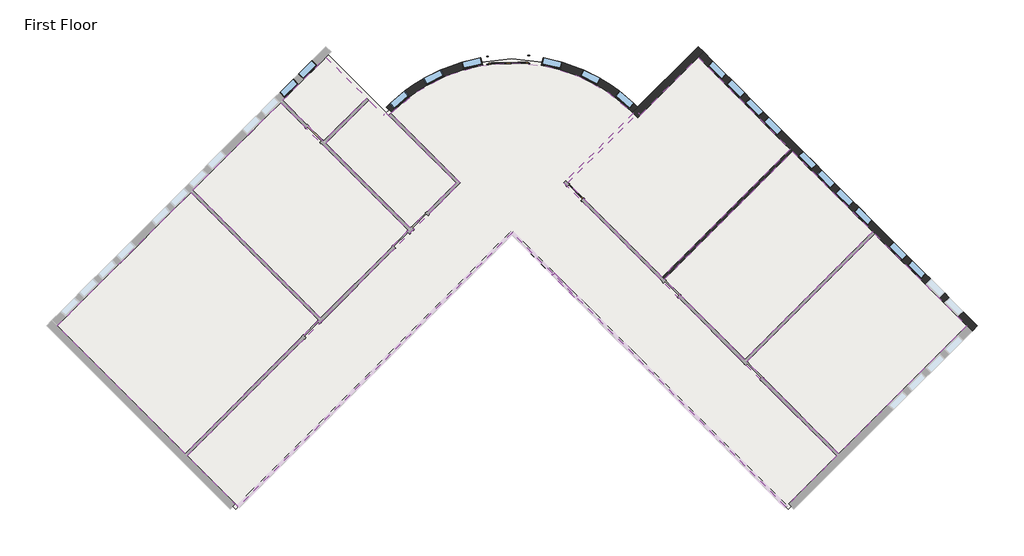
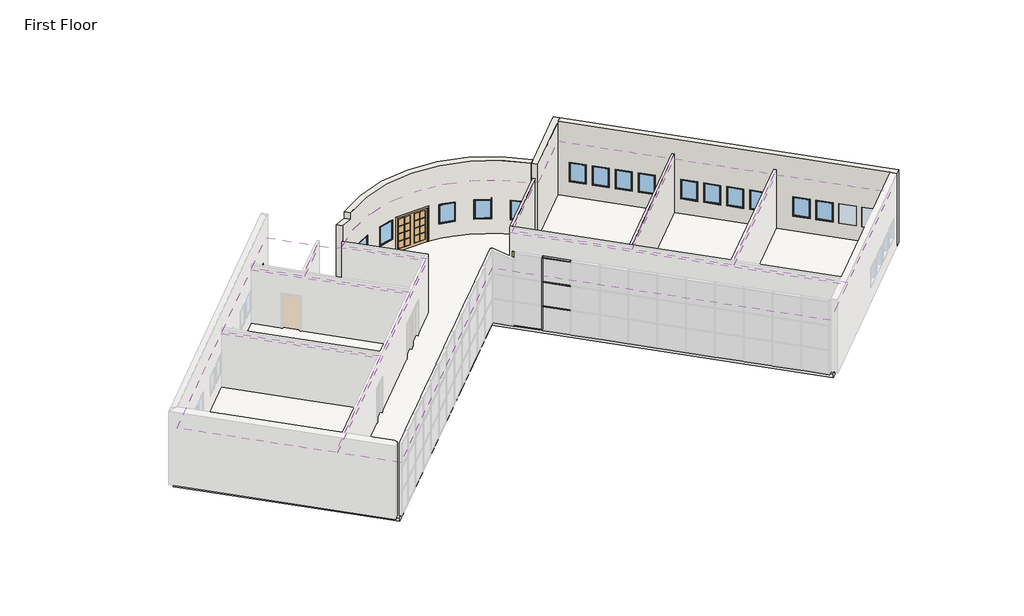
# One storey, part 4 of 4: 18 windows, 8 coverings, 7 members, 5 walls, 2 doors, 1 slab.
"""IFC4 building model written with IfcOpenShell, lengths in millimetres."""

from ifc_helpers import new_model, si_unit, point, frame, frame_2d, origin, origin_with_axes, place, context, project, spatial, polyline, circle_curve, ellipse_curve, trimmed, segment, composite_curve, outline, extrude, faceted_brep, transform, mapped, element, save
from ifc_brep_helpers import plane_surface, cylinder_surface, revolved_surface, advanced_brep
from components import m_double_glass_2_1830_x_2134mm_ef281dce, m_single_glass_1_0915_x_2134mm_4e5e1233, rectangular_mullion_50_x_150mm_40297ad3, rectangular_mullion_50_x_150mm_f494fff1, rectangular_mullion_50_x_150mm_5da8f88f, m_fixed_0915_x_1220mm_bde29121, m_fixed_0915_x_1220mm_2a2509e7

model = new_model("IFC4")

# Units and contexts
model_context = context("Model", 3, world=origin())
ifc_project = project(units=[si_unit("LENGTHUNIT", "METRE", prefix="MILLI")], contexts=[model_context])

# Site, building, storey
site = spatial("IfcSite", under=ifc_project)
building = spatial("IfcBuilding", under=site)
storey = spatial("IfcBuildingStorey", under=building, Name="First Floor", Elevation=0.0)

# Coverings
placement = place(None, origin())
element("IfcCovering", 1, ObjectType="600 x 600mm grid", at=placement, inside=storey, context=model_context, shape_type="SweptSolid", body=[
    extrude(outline(polyline([(-10551.8033322, -2052.473346), (-16737.0431239, -8237.7131378), (-22658.8856396, -2315.870622), (-16473.6458479, 3869.3691697), (-10551.8033322, -2052.473346)])), frame((0.0, 0.0, 3353.0), z_axis=(0.0, 0.0, 1.0), x_axis=(1.0, 0.0, 0.0)), (0.0, 0.0, 1.0), 52.0),
])
element("IfcCovering", 2, ObjectType="600 x 600mm grid", at=placement, inside=storey, context=model_context, shape_type="SweptSolid", body=[
    extrude(outline(polyline([(-16375.7115587, 3967.3034589), (-12319.9238385, 8023.0911791), (-6398.0813228, 2101.2486633), (-10453.869043, -1954.5390569), (-16375.7115587, 3967.3034589)])), frame((0.0, 0.0, 3353.0), z_axis=(0.0, 0.0, 1.0), x_axis=(1.0, 0.0, 0.0)), (0.0, 0.0, 1.0), 52.0),
])
element("IfcCovering", 3, ObjectType="600 x 600mm grid", at=placement, inside=storey, context=model_context, shape_type="SweptSolid", body=[
    extrude(outline(polyline([(-12221.9895493, 8121.0254683), (-10222.2915721, 10120.7234455), (-8331.6648159, 8230.0966893), (-10331.3627931, 6230.3987121), (-12221.9895493, 8121.0254683)])), frame((0.0, 0.0, 3353.0), z_axis=(0.0, 0.0, 1.0), x_axis=(1.0, 0.0, 0.0)), (0.0, 0.0, 1.0), 52.0),
])
element("IfcCovering", 4, ObjectType="600 x 600mm grid", at=placement, inside=storey, context=model_context, shape_type="SweptSolid", body=[
    extrude(outline(polyline([(-8233.7305267, 8132.1624001), (-7543.133828, 7441.5657013), (-7436.5374807, 7548.1620486), (-4193.8527091, 4305.477277), (-6300.1470336, 2199.1829525), (-10233.4285039, 6132.4644229), (-8233.7305267, 8132.1624001)])), frame((0.0, 0.0, 3353.0), z_axis=(0.0, 0.0, 1.0), x_axis=(1.0, 0.0, 0.0)), (0.0, 0.0, 1.0), 52.0),
])
element("IfcCovering", 5, ObjectType="600 x 600mm grid", at=placement, inside=storey, context=model_context, shape_type="SweptSolid", body=[
    extrude(outline(polyline([(4234.0460889, 7548.1620486), (4340.6424361, 7441.5657013), (7019.8001803, 10120.7234455), (11281.3559738, 5859.167652), (5359.5134581, -62.6748638), (991.3613173, 4305.477277), (4234.0460889, 7548.1620486)])), frame((0.0, 0.0, 3353.0), z_axis=(0.0, 0.0, 1.0), x_axis=(1.0, 0.0, 0.0)), (0.0, 0.0, 1.0), 52.0),
])
element("IfcCovering", 6, ObjectType="600 x 600mm grid", at=placement, inside=storey, context=model_context, shape_type="SweptSolid", body=[
    extrude(outline(polyline([(11379.290263, 5761.2333628), (15096.9041651, 2043.6194607), (9175.0616494, -3878.2230551), (5457.4477473, -160.609153), (11379.290263, 5761.2333628)])), frame((0.0, 0.0, 3353.0), z_axis=(0.0, 0.0, 1.0), x_axis=(1.0, 0.0, 0.0)), (0.0, 0.0, 1.0), 52.0),
])
element("IfcCovering", 7, ObjectType="600 x 600mm grid", at=placement, inside=storey, context=model_context, shape_type="SweptSolid", body=[
    extrude(outline(polyline([(15194.8384543, 1945.6851715), (19456.3942478, -2315.870622), (13534.5517321, -8237.7131378), (9272.9959386, -3976.1573443), (15194.8384543, 1945.6851715)])), frame((0.0, 0.0, 3353.0), z_axis=(0.0, 0.0, 1.0), x_axis=(1.0, 0.0, 0.0)), (0.0, 0.0, 1.0), 52.0),
])
element("IfcCovering", 8, ObjectType="600 x 600mm grid", at=placement, inside=storey, context=model_context, shape_type="SweptSolid", body=[
    extrude(outline(composite_curve([segment(polyline([(795.4927389, 4305.477277), (13436.6174429, -8335.647427), (11082.835745, -10689.4291248), (-1601.2456959, 1994.6523161), (-14285.3271368, -10689.4291248), (-16639.1088347, -8335.647427), (-3997.9841307, 4305.477277), (-7216.038281, 7523.5314273)]), True, "CONTINUOUS"), segment(trimmed(circle_curve(frame_2d((-1601.2456959, 1994.6523161)), 7880.0), [point((-7216.038281, 7523.5314273))], [point((4013.5468892, 7523.5314273))], False, "CARTESIAN"), True, "CONTINUOUS"), segment(polyline([(4013.5468892, 7523.5314273), (795.4927389, 4305.477277)]), True, "CONTINUOUS")], self_intersect=False)), frame((0.0, 0.0, 3353.0), z_axis=(0.0, 0.0, 1.0), x_axis=(1.0, 0.0, 0.0)), (0.0, 0.0, 1.0), 52.0),
])

# Doors
m_double_glass_2_1830_x_2134mm_shape = m_double_glass_2_1830_x_2134mm_ef281dce(model_context)
element("IfcDoor", 9, ObjectType="M_Double-Glass 2 : 1830 x 2134mm", at=placement, inside=storey, context=model_context, shape_type="MappedRepresentation", body=[
    mapped(m_double_glass_2_1830_x_2134mm_shape, transform((-1775.1372024, 9996.7407669, 0.0), x_axis=(-0.9997639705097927, -0.021725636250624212, 0.0), y_axis=(0.021725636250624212, -0.9997639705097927, 0.0), z_axis=(0.0, 0.0, 1.0))),
])
m_single_glass_1_0915_x_2134mm_shape = m_single_glass_1_0915_x_2134mm_4e5e1233(model_context)
element("IfcDoor", 10, ObjectType="M_Single-Glass 1 : 0915 x 2134mm", at=placement, inside=storey, context=model_context, shape_type="MappedRepresentation", body=[
    mapped(m_single_glass_1_0915_x_2134mm_shape, transform((1324.7621646, 3874.1421405, 0.0), x_axis=(-0.7071067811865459, 0.7071067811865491, 0.0), y_axis=(-0.7071067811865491, -0.7071067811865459, 0.0), z_axis=(0.0, 0.0, 1.0))),
])

# Members
rectangular_mullion_50_x_150mm_shape = rectangular_mullion_50_x_150mm_40297ad3(model_context)
element("IfcMember", 11, ObjectType="Rectangular Mullion : 50 x 150mm", at=placement, inside=storey, context=model_context, shape_type="MappedRepresentation", body=[
    mapped(rectangular_mullion_50_x_150mm_shape, transform((306.5283997, 86.8782204, 0.0), x_axis=(-0.7071067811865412, 0.7071067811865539, 0.0), y_axis=(0.7071067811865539, 0.7071067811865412, 0.0), z_axis=(0.0, 0.0, -1.0))),
])
rectangular_mullion_50_x_150mm_2_shape = rectangular_mullion_50_x_150mm_f494fff1(model_context)
element("IfcMember", 12, ObjectType="Rectangular Mullion : 50 x 150mm", at=placement, inside=storey, context=model_context, shape_type="MappedRepresentation", body=[
    mapped(rectangular_mullion_50_x_150mm_2_shape, transform((324.2060693, 69.2005509, 1524.0), x_axis=(0.0, 0.0, 1.0), y_axis=(0.7071067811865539, 0.7071067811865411, 0.0), z_axis=(-0.7071067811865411, 0.7071067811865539, 0.0))),
])
element("IfcMember", 13, ObjectType="Rectangular Mullion : 50 x 150mm", at=placement, inside=storey, context=model_context, shape_type="MappedRepresentation", body=[
    mapped(rectangular_mullion_50_x_150mm_2_shape, transform((324.2060693, 69.2005509, 3048.0), x_axis=(0.0, 0.0, 1.0), y_axis=(0.7071067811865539, 0.7071067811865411, 0.0), z_axis=(-0.7071067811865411, 0.7071067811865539, 0.0))),
])
rectangular_mullion_50_x_150mm_3_shape = rectangular_mullion_50_x_150mm_5da8f88f(model_context)
element("IfcMember", 14, ObjectType="Rectangular Mullion : 50 x 150mm", at=placement, inside=storey, context=model_context, shape_type="MappedRepresentation", body=[
    mapped(rectangular_mullion_50_x_150mm_3_shape, transform((288.8507302, 104.55589, 0.0), x_axis=(0.0, 0.0, -1.0), y_axis=(0.7071067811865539, 0.7071067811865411, 0.0), z_axis=(0.7071067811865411, -0.7071067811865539, 0.0))),
])
element("IfcMember", 15, ObjectType="Rectangular Mullion : 50 x 150mm", at=placement, inside=storey, context=model_context, shape_type="MappedRepresentation", body=[
    mapped(rectangular_mullion_50_x_150mm_3_shape, transform((324.2060693, 69.2005509, 4572.0), x_axis=(0.0, 0.0, 1.0), y_axis=(0.7071067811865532, 0.7071067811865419, 0.0), z_axis=(-0.7071067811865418, 0.7071067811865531, 0.0))),
])
element("IfcMember", 16, ObjectType="Rectangular Mullion : 50 x 150mm", at=placement, inside=storey, context=model_context, shape_type="MappedRepresentation", body=[
    mapped(rectangular_mullion_50_x_150mm_shape, transform((306.5283997, 86.8782204, 1524.0), x_axis=(-0.7071067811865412, 0.7071067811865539, 0.0), y_axis=(0.7071067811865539, 0.7071067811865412, 0.0), z_axis=(0.0, 0.0, -1.0))),
])
element("IfcMember", 17, ObjectType="Rectangular Mullion : 50 x 150mm", at=placement, inside=storey, context=model_context, shape_type="MappedRepresentation", body=[
    mapped(rectangular_mullion_50_x_150mm_shape, transform((306.5283997, 86.8782204, 3048.0), x_axis=(-0.7071067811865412, 0.7071067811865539, 0.0), y_axis=(0.7071067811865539, 0.7071067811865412, 0.0), z_axis=(0.0, 0.0, -1.0))),
])

# Slab
element("IfcSlab", 18, ObjectType="160mm Concrete With 50mm Metal Deck", at=placement, inside=storey, context=model_context, shape_type="SweptSolid", body=[
    extrude(outline(composite_curve([segment(polyline([(-10222.2915721, 10354.0686833), (-7419.2302211, 7551.0073322)]), True, "CONTINUOUS"), segment(trimmed(circle_curve(frame_2d((-1601.2456959, 1994.6523161)), 8045.0), [point((-7419.2302211, 7551.0073322))], [point((4216.7388292, 7551.0073322))], False, "CARTESIAN"), True, "CONTINUOUS"), segment(polyline([(4216.7388292, 7551.0073322), (7019.8001803, 10354.0686833), (19689.7394856, -2315.870622), (11199.5083639, -10806.1017437), (-1601.2456959, 1994.6523161), (-14401.9997557, -10806.1017437), (-22892.2308774, -2315.870622), (-10222.2915721, 10354.0686833)]), True, "CONTINUOUS")], self_intersect=False)), frame((0.0, 0.0, -210.0), z_axis=(0.0, 0.0, 1.0), x_axis=(1.0, 0.0, 0.0)), (0.0, 0.0, 1.0), 210.0),
])

# Walls
element("IfcWall", 19, ObjectType="Exterior - Brick on Mtl. Stud", at=placement, inside=storey, context=model_context, shape_type="AdvancedBrep", body=[
    advanced_brep(
    [(4212.7441701, 7313.6674352, 4572.0), (4212.7441701, 7313.6674352, 0.0), (7019.8001803, 10120.7234455, 0.0), (7267.2875537, 10368.2108189, 0.0), (7267.2875537, 10368.2108189, 4572.0), (7019.8001803, 10120.7234455, 4572.0), (3970.7557398, 7566.6537518, 0.0), (3970.7557398, 7566.6537518, 4572.0), (4218.2431133, 7814.1411252, 4572.0), (7019.8001803, 10615.6981923, 4572.0), (7019.8001803, 10615.6981923, 0.0), (4218.2431133, 7814.1411252, 0.0), (4109.8638796, 7423.9826013, 0.0), (4013.5506313, 7523.5275434, 0.0)],
    [
        (0, 1),
        (1, 2),
        (2, 3),
        (3, 4),
        (4, 5),
        (5, 0),
        (6, 7),
        (7, 8),
        (8, 9),
        (9, 10),
        (10, 11),
        (11, 6),
        (1, 12, circle_curve(frame((-1601.2456959, 1994.6523161, 0.0), z_axis=(0.0, 0.0, 1.0), x_axis=(1.0, 0.0, 0.0)), 7880.0)),
        (12, 13, circle_curve(frame((-1601.2456959, 1994.6523161, 0.0), z_axis=(0.0, 0.0, 1.0), x_axis=(1.0, 0.0, 0.0)), 7879.9999955)),
        (13, 6, circle_curve(frame((-1601.2456959, 1994.6523161, 0.0), z_axis=(0.0, 0.0, 1.0), x_axis=(1.0, 0.0, 0.0)), 7879.9999413)),
        (10, 3),
        (4, 9),
        (7, 0, circle_curve(frame((-1601.2456959, 1994.6523161, 4572.0), z_axis=(0.0, 0.0, -1.0), x_axis=(1.0, 0.0, 0.0)), 7880.0)),
    ],
    [
        plane_surface(frame((4250.0629184, 7350.9861836, 0.0), z_axis=(0.7071067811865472, -0.7071067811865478, 0.0), x_axis=(0.7071067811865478, 0.7071067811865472, 0.0))),
        plane_surface(frame((4002.575545, 7598.473557, 0.0), z_axis=(-0.7071067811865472, 0.7071067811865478, 0.0), x_axis=(-0.7071067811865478, -0.7071067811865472, 0.0))),
        plane_surface(frame((4340.6424361, 7441.5657013, 0.0), z_axis=(0.0, 0.0, -1.0), x_axis=(-0.7071067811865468, 0.7071067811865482, 0.0))),
        plane_surface(frame((7143.543867, 10244.4671322, 4572.0), z_axis=(0.0, 0.0, 1.0), x_axis=(-0.707106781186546, 0.7071067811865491, 0.0))),
        plane_surface(frame((7019.8001803, 10615.6981923, 0.0), z_axis=(0.7071067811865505, 0.7071067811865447, 0.0), x_axis=(-0.7071067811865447, 0.7071067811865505, 0.0))),
        revolved_surface(polyline([(6278.7543041, 1994.6523161, 0.0), (6278.7543041, 1994.6523161, 4572.0)]), (-1601.2456959, 1994.6523161, 0.0), (0.0, 0.0, -1.0)),
    ],
    [
        (0, [[1, 2, 3, 4, 5, 6]]),
        (1, [[7, 8, 9, 10, 11, 12]]),
        (2, [[-3, -2, 13, 14, 15, -12, -11, 16]]),
        (3, [[-6, -5, 17, -9, -8, 18]]),
        (4, [[-4, -16, -10, -17]]),
        (5, [[-18, -7, -15, -14, -13, -1]]),
    ],
),
])
element("IfcWall", 20, ObjectType="Exterior - Brick on Mtl. Stud", at=placement, inside=storey, context=model_context, shape_type="Brep", body=[
    faceted_brep([(7019.8001803, 10120.7234455, 0.0), (11281.3559738, 5859.167652, 0.0), (11379.290263, 5761.2333628, 0.0), (15096.9041651, 2043.6194607, 0.0), (15194.8384543, 1945.6851715, 0.0), (19456.3942478, -2315.870622, 0.0), (19703.8816212, -2563.3579955, 0.0), (19703.8816212, -2563.3579955, 4572.0), (19456.3942478, -2315.870622, 4572.0), (7019.8001803, 10120.7234455, 4572.0), (19041.6761207, -1901.1524949, 915.0), (18394.6734159, -1254.1497901, 915.0), (18394.6734159, -1254.1497901, 2135.0), (19041.6761207, -1901.1524949, 2135.0), (18179.7129544, -1039.1893286, 915.0), (17532.7102496, -392.1866238, 915.0), (17532.7102496, -392.1866238, 2135.0), (18179.7129544, -1039.1893286, 2135.0), (17317.7497881, -177.2261623, 915.0), (16670.7470833, 469.7765424, 915.0), (16670.7470833, 469.7765424, 2135.0), (17317.7497881, -177.2261623, 2135.0), (16455.7866219, 684.7370039, 915.0), (15808.7839171, 1331.7397087, 915.0), (15808.7839171, 1331.7397087, 2135.0), (16455.7866219, 684.7370039, 2135.0), (12257.1680181, 4883.3556077, 915.0), (11610.1653133, 5530.3583124, 915.0), (11610.1653133, 5530.3583124, 2135.0), (12257.1680181, 4883.3556077, 2135.0), (13119.1311844, 4021.3924414, 915.0), (12472.1284796, 4668.3951462, 915.0), (12472.1284796, 4668.3951462, 2135.0), (13119.1311844, 4021.3924414, 2135.0), (13981.0943507, 3159.4292751, 915.0), (13334.0916459, 3806.4319799, 915.0), (13334.0916459, 3806.4319799, 2135.0), (13981.0943507, 3159.4292751, 2135.0), (14843.0575169, 2297.4661089, 915.0), (14196.0548121, 2944.4688136, 915.0), (14196.0548121, 2944.4688136, 2135.0), (14843.0575169, 2297.4661089, 2135.0), (8081.5210123, 9059.0026135, 915.0), (7434.5183075, 9706.0053183, 915.0), (7434.5183075, 9706.0053183, 2135.0), (8081.5210123, 9059.0026135, 2135.0), (8943.4841785, 8197.0394473, 915.0), (8296.4814737, 8844.042152, 915.0), (8296.4814737, 8844.042152, 2135.0), (8943.4841785, 8197.0394473, 2135.0), (9805.4473448, 7335.076281, 915.0), (9158.44464, 7982.0789858, 915.0), (9158.44464, 7982.0789858, 2135.0), (9805.4473448, 7335.076281, 2135.0), (10667.4105111, 6473.1131147, 915.0), (10020.4078063, 7120.1158195, 915.0), (10020.4078063, 7120.1158195, 2135.0), (10667.4105111, 6473.1131147, 2135.0), (7267.2875537, 10368.2108189, 0.0), (7267.2875537, 10368.2108189, 4572.0), (19951.3689947, -2315.870622, 4572.0), (19951.3689947, -2315.870622, 0.0), (19289.1634941, -1653.6651215, 915.0), (19289.1634941, -1653.6651215, 2135.0), (18642.1607893, -1006.6624167, 2135.0), (18642.1607893, -1006.6624167, 915.0), (18427.2003278, -791.7019552, 915.0), (18427.2003278, -791.7019552, 2135.0), (17780.197623, -144.6992504, 2135.0), (17780.197623, -144.6992504, 915.0), (17565.2371615, 70.2612111, 915.0), (17565.2371615, 70.2612111, 2135.0), (16918.2344568, 717.2639159, 2135.0), (16918.2344568, 717.2639159, 915.0), (16703.2739953, 932.2243773, 915.0), (16703.2739953, 932.2243773, 2135.0), (16056.2712905, 1579.2270821, 2135.0), (16056.2712905, 1579.2270821, 915.0), (12504.6553915, 5130.8429811, 915.0), (12504.6553915, 5130.8429811, 2135.0), (11857.6526868, 5777.8456859, 2135.0), (11857.6526868, 5777.8456859, 915.0), (13366.6185578, 4268.8798148, 915.0), (13366.6185578, 4268.8798148, 2135.0), (12719.615853, 4915.8825196, 2135.0), (12719.615853, 4915.8825196, 915.0), (14228.5817241, 3406.9166485, 915.0), (14228.5817241, 3406.9166485, 2135.0), (13581.5790193, 4053.9193533, 2135.0), (13581.5790193, 4053.9193533, 915.0), (15090.5448903, 2544.9534823, 915.0), (15090.5448903, 2544.9534823, 2135.0), (14443.5421856, 3191.9561871, 2135.0), (14443.5421856, 3191.9561871, 915.0), (8329.0083857, 9306.4899869, 915.0), (8329.0083857, 9306.4899869, 2135.0), (7682.0056809, 9953.4926917, 2135.0), (7682.0056809, 9953.4926917, 915.0), (9190.971552, 8444.5268207, 915.0), (9190.971552, 8444.5268207, 2135.0), (8543.9688472, 9091.5295255, 2135.0), (8543.9688472, 9091.5295255, 915.0), (10052.9347182, 7582.5636544, 915.0), (10052.9347182, 7582.5636544, 2135.0), (9405.9320134, 8229.5663592, 2135.0), (9405.9320134, 8229.5663592, 915.0), (10914.8978845, 6720.6004881, 915.0), (10914.8978845, 6720.6004881, 2135.0), (10267.8951797, 7367.6031929, 2135.0), (10267.8951797, 7367.6031929, 915.0)], [[[0, 1, 2, 3, 4, 5, 6, 7, 8, 9], [10, 11, 12, 13], [14, 15, 16, 17], [18, 19, 20, 21], [22, 23, 24, 25], [26, 27, 28, 29], [30, 31, 32, 33], [34, 35, 36, 37], [38, 39, 40, 41], [42, 43, 44, 45], [46, 47, 48, 49], [50, 51, 52, 53], [54, 55, 56, 57]], [[58, 59, 60, 61], [62, 63, 64, 65], [66, 67, 68, 69], [70, 71, 72, 73], [74, 75, 76, 77], [78, 79, 80, 81], [82, 83, 84, 85], [86, 87, 88, 89], [90, 91, 92, 93], [94, 95, 96, 97], [98, 99, 100, 101], [102, 103, 104, 105], [106, 107, 108, 109]], [[6, 5, 4, 3, 2, 1, 0, 58, 61]], [[9, 8, 7, 60, 59]], [[0, 9, 59, 58]], [[7, 6, 61, 60]], [[63, 62, 10, 13]], [[64, 63, 13, 12]], [[65, 64, 12, 11]], [[62, 65, 11, 10]], [[67, 66, 14, 17]], [[68, 67, 17, 16]], [[69, 68, 16, 15]], [[66, 69, 15, 14]], [[71, 70, 18, 21]], [[72, 71, 21, 20]], [[73, 72, 20, 19]], [[70, 73, 19, 18]], [[75, 74, 22, 25]], [[76, 75, 25, 24]], [[77, 76, 24, 23]], [[74, 77, 23, 22]], [[79, 78, 26, 29]], [[80, 79, 29, 28]], [[81, 80, 28, 27]], [[78, 81, 27, 26]], [[83, 82, 30, 33]], [[84, 83, 33, 32]], [[85, 84, 32, 31]], [[82, 85, 31, 30]], [[87, 86, 34, 37]], [[88, 87, 37, 36]], [[89, 88, 36, 35]], [[86, 89, 35, 34]], [[91, 90, 38, 41]], [[92, 91, 41, 40]], [[93, 92, 40, 39]], [[90, 93, 39, 38]], [[95, 94, 42, 45]], [[96, 95, 45, 44]], [[97, 96, 44, 43]], [[94, 97, 43, 42]], [[99, 98, 46, 49]], [[100, 99, 49, 48]], [[101, 100, 48, 47]], [[98, 101, 47, 46]], [[103, 102, 50, 53]], [[104, 103, 53, 52]], [[105, 104, 52, 51]], [[102, 105, 51, 50]], [[107, 106, 54, 57]], [[108, 107, 57, 56]], [[109, 108, 56, 55]], [[106, 109, 55, 54]]]),
])
element("IfcWall", 21, ObjectType="Exterior - Brick on Mtl. Stud", at=placement, inside=storey, context=model_context, shape_type="AdvancedBrep", body=[
    advanced_brep(
    [(-7173.2471317, 7566.6537518, 0.0), (-7420.7345051, 7814.1411252, 0.0), (-2693.7232217, 10151.8205046, 0.0), (-2686.0696858, 9799.6223295, 0.0), (4218.2431133, 7814.1411252, 0.0), (3970.7557398, 7566.6537518, 0.0), (-856.5016198, 9839.3802439, 0.0), (-864.1551557, 10191.5784189, 0.0), (-7420.7345051, 7814.1411252, 4571.7250795), (-6493.7687298, 8612.515896, 4165.1754932), (-6493.7687298, 8612.515896, 4572.0), (4218.2431133, 7814.1411252, 4572.0), (-864.1551557, 10191.5784189, 2134.0), (-2693.7232217, 10151.8205046, 2134.0), (-6560.8584073, 8562.3872188, 915.0), (-6560.8584073, 8562.3872188, 2135.0), (-7259.2688911, 7971.2461222, 2135.0), (-7259.2688911, 7971.2461222, 915.0), (-3038.6037285, 10098.1640169, 915.0), (-3038.6037285, 10098.1640169, 2135.0), (-3929.264468, 9888.5251676, 2135.0), (-3929.264468, 9888.5251676, 915.0), (-4890.6166492, 9538.7187747, 915.0), (-4890.6166492, 9538.7187747, 2135.0), (-5707.7291441, 9126.9516431, 2135.0), (-5707.7291441, 9126.9516431, 915.0), (1688.1252574, 9538.7187747, 915.0), (2505.2377523, 9126.9516431, 915.0), (2505.2377523, 9126.9516431, 2135.0), (1688.1252574, 9538.7187747, 2135.0), (-163.8876633, 10098.1640169, 915.0), (726.7730762, 9888.5251676, 915.0), (726.7730762, 9888.5251676, 2135.0), (-163.8876633, 10098.1640169, 2135.0), (3358.3670155, 8562.3872188, 915.0), (4056.7774992, 7971.2461222, 915.0), (4056.7774992, 7971.2461222, 2135.0), (3358.3670155, 8562.3872188, 2135.0), (-7173.2471317, 7566.6537518, 4571.7250795), (-2686.0696858, 9799.6223295, 2134.0), (-856.5016198, 9839.3802439, 2134.0), (3970.7557398, 7566.6537518, 4572.0), (-6243.3914961, 8362.1386623, 4572.0), (-6243.3914961, 8362.1386623, 4165.1754932), (-6334.373084, 8294.8035149, 2135.0), (-6334.373084, 8294.8035149, 915.0), (-7032.7835678, 7703.6624182, 915.0), (-7032.7835678, 7703.6624182, 2135.0), (-2958.2842873, 9756.9230059, 2135.0), (-2958.2842873, 9756.9230059, 915.0), (-3848.9450268, 9547.2841566, 915.0), (-3848.9450268, 9547.2841566, 2135.0), (-4732.8553085, 9225.6564811, 915.0), (-5549.9678034, 8813.8893495, 915.0), (-5549.9678034, 8813.8893495, 2135.0), (-4732.8553085, 9225.6564811, 2135.0), (1530.3639167, 9225.6564811, 915.0), (1530.3639167, 9225.6564811, 2135.0), (2347.4764116, 8813.8893495, 2135.0), (2347.4764116, 8813.8893495, 915.0), (-244.2071045, 9756.9230059, 915.0), (-244.2071045, 9756.9230059, 2135.0), (646.453635, 9547.2841566, 2135.0), (646.453635, 9547.2841566, 915.0), (3131.8816922, 8294.8035149, 915.0), (3131.8816922, 8294.8035149, 2135.0), (3830.2921759, 7703.6624182, 2135.0), (3830.2921759, 7703.6624182, 915.0)],
    [
        (0, 1),
        (1, 2, circle_curve(frame((-1601.2456959, 1994.6523161, 0.0), z_axis=(0.0, 0.0, -1.0), x_axis=(1.0, 0.0, 0.0)), 8230.0)),
        (2, 3),
        (3, 0, circle_curve(frame((-1601.2456959, 1994.6523161, 0.0), z_axis=(0.0, 0.0, 1.0), x_axis=(1.0, 0.0, 0.0)), 7880.0)),
        (4, 5),
        (5, 6, circle_curve(frame((-1601.2456959, 1994.6523161, 0.0), z_axis=(0.0, 0.0, 1.0), x_axis=(1.0, 0.0, 0.0)), 7880.0)),
        (6, 7),
        (7, 4, circle_curve(frame((-1601.2456959, 1994.6523161, 0.0), z_axis=(0.0, 0.0, -1.0), x_axis=(1.0, 0.0, 0.0)), 8230.0)),
        (1, 8),
        (8, 9, ellipse_curve(frame((-1601.2456959, 1994.6523161, 4571.7250795), z_axis=(-0.22354885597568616, -0.22354885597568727, -0.948710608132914), x_axis=(-0.6708397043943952, -0.6708397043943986, 0.3161458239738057)), 8674.9319861, 8230.0)),
        (9, 10),
        (10, 11, circle_curve(frame((-1601.2456959, 1994.6523161, 4572.0), z_axis=(0.0, 0.0, -1.0), x_axis=(1.0, 0.0, 0.0)), 8230.0)),
        (11, 4),
        (7, 12),
        (12, 13, circle_curve(frame((-1601.2456959, 1994.6523161, 2134.0), z_axis=(0.0, 0.0, 1.0), x_axis=(1.0, 0.0, 0.0)), 8230.0)),
        (13, 2),
        (14, 15),
        (15, 16, circle_curve(frame((-1601.2456959, 1994.6523161, 2135.0), z_axis=(0.0, 0.0, 1.0), x_axis=(1.0, 0.0, 0.0)), 8230.0)),
        (16, 17),
        (17, 14, circle_curve(frame((-1601.2456959, 1994.6523161, 915.0), z_axis=(0.0, 0.0, -1.0), x_axis=(1.0, 0.0, 0.0)), 8230.0)),
        (18, 19),
        (19, 20, circle_curve(frame((-1601.2456959, 1994.6523161, 2135.0), z_axis=(0.0, 0.0, 1.0), x_axis=(1.0, 0.0, 0.0)), 8230.0)),
        (20, 21),
        (21, 18, circle_curve(frame((-1601.2456959, 1994.6523161, 915.0), z_axis=(0.0, 0.0, -1.0), x_axis=(1.0, 0.0, 0.0)), 8230.0)),
        (22, 23),
        (23, 24, circle_curve(frame((-1601.2456959, 1994.6523161, 2135.0), z_axis=(0.0, 0.0, 1.0), x_axis=(1.0, 0.0, 0.0)), 8230.0)),
        (24, 25),
        (25, 22, circle_curve(frame((-1601.2456959, 1994.6523161, 915.0), z_axis=(0.0, 0.0, -1.0), x_axis=(1.0, 0.0, 0.0)), 8230.0)),
        (26, 27, circle_curve(frame((-1601.2456959, 1994.6523161, 915.0), z_axis=(0.0, 0.0, -1.0), x_axis=(1.0, 0.0, 0.0)), 8230.0)),
        (27, 28),
        (28, 29, circle_curve(frame((-1601.2456959, 1994.6523161, 2135.0), z_axis=(0.0, 0.0, 1.0), x_axis=(1.0, 0.0, 0.0)), 8230.0)),
        (29, 26),
        (30, 31, circle_curve(frame((-1601.2456959, 1994.6523161, 915.0), z_axis=(0.0, 0.0, -1.0), x_axis=(1.0, 0.0, 0.0)), 8230.0)),
        (31, 32),
        (32, 33, circle_curve(frame((-1601.2456959, 1994.6523161, 2135.0), z_axis=(0.0, 0.0, 1.0), x_axis=(1.0, 0.0, 0.0)), 8230.0)),
        (33, 30),
        (34, 35, circle_curve(frame((-1601.2456959, 1994.6523161, 915.0), z_axis=(0.0, 0.0, -1.0), x_axis=(1.0, 0.0, 0.0)), 8230.0)),
        (35, 36),
        (36, 37, circle_curve(frame((-1601.2456959, 1994.6523161, 2135.0), z_axis=(0.0, 0.0, 1.0), x_axis=(1.0, 0.0, 0.0)), 8230.0)),
        (37, 34),
        (38, 0),
        (3, 39),
        (39, 40, circle_curve(frame((-1601.2456959, 1994.6523161, 2134.0), z_axis=(0.0, 0.0, -1.0), x_axis=(1.0, 0.0, 0.0)), 7880.0)),
        (40, 6),
        (5, 41),
        (41, 42, circle_curve(frame((-1601.2456959, 1994.6523161, 4572.0), z_axis=(0.0, 0.0, 1.0), x_axis=(1.0, 0.0, 0.0)), 7880.0)),
        (42, 43),
        (43, 38, ellipse_curve(frame((-1601.2456959, 1994.6523161, 4571.7250795), z_axis=(0.22354885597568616, 0.22354885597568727, 0.948710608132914), x_axis=(0.6708397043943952, 0.6708397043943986, -0.3161458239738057)), 8306.0102126, 7880.0)),
        (44, 45),
        (45, 46, circle_curve(frame((-1601.2456959, 1994.6523161, 915.0), z_axis=(0.0, 0.0, 1.0), x_axis=(1.0, 0.0, 0.0)), 7880.0)),
        (46, 47),
        (47, 44, circle_curve(frame((-1601.2456959, 1994.6523161, 2135.0), z_axis=(0.0, 0.0, -1.0), x_axis=(1.0, 0.0, 0.0)), 7880.0)),
        (48, 49),
        (49, 50, circle_curve(frame((-1601.2456959, 1994.6523161, 915.0), z_axis=(0.0, 0.0, 1.0), x_axis=(1.0, 0.0, 0.0)), 7880.0)),
        (50, 51),
        (51, 48, circle_curve(frame((-1601.2456959, 1994.6523161, 2135.0), z_axis=(0.0, 0.0, -1.0), x_axis=(1.0, 0.0, 0.0)), 7880.0)),
        (52, 53, circle_curve(frame((-1601.2456959, 1994.6523161, 915.0), z_axis=(0.0, 0.0, 1.0), x_axis=(1.0, 0.0, 0.0)), 7880.0)),
        (53, 54),
        (54, 55, circle_curve(frame((-1601.2456959, 1994.6523161, 2135.0), z_axis=(0.0, 0.0, -1.0), x_axis=(1.0, 0.0, 0.0)), 7880.0)),
        (55, 52),
        (56, 57),
        (57, 58, circle_curve(frame((-1601.2456959, 1994.6523161, 2135.0), z_axis=(0.0, 0.0, -1.0), x_axis=(1.0, 0.0, 0.0)), 7880.0)),
        (58, 59),
        (59, 56, circle_curve(frame((-1601.2456959, 1994.6523161, 915.0), z_axis=(0.0, 0.0, 1.0), x_axis=(1.0, 0.0, 0.0)), 7880.0)),
        (60, 61),
        (61, 62, circle_curve(frame((-1601.2456959, 1994.6523161, 2135.0), z_axis=(0.0, 0.0, -1.0), x_axis=(1.0, 0.0, 0.0)), 7880.0)),
        (62, 63),
        (63, 60, circle_curve(frame((-1601.2456959, 1994.6523161, 915.0), z_axis=(0.0, 0.0, 1.0), x_axis=(1.0, 0.0, 0.0)), 7880.0)),
        (64, 65),
        (65, 66, circle_curve(frame((-1601.2456959, 1994.6523161, 2135.0), z_axis=(0.0, 0.0, -1.0), x_axis=(1.0, 0.0, 0.0)), 7880.0)),
        (66, 67),
        (67, 64, circle_curve(frame((-1601.2456959, 1994.6523161, 915.0), z_axis=(0.0, 0.0, 1.0), x_axis=(1.0, 0.0, 0.0)), 7880.0)),
        (38, 8),
        (11, 41),
        (13, 39),
        (12, 40),
        (14, 45),
        (44, 15),
        (47, 16),
        (46, 17),
        (18, 49),
        (48, 19),
        (51, 20),
        (50, 21),
        (22, 52),
        (55, 23),
        (54, 24),
        (53, 25),
        (56, 26),
        (29, 57),
        (28, 58),
        (27, 59),
        (60, 30),
        (33, 61),
        (32, 62),
        (31, 63),
        (64, 34),
        (37, 65),
        (36, 66),
        (35, 67),
        (10, 42),
        (9, 43),
    ],
    [
        plane_surface(frame((6628.7543041, 1994.6523161, 0.0), z_axis=(0.0, 0.0, -1.0), x_axis=(0.0, -1.0, 0.0))),
        cylinder_surface(frame((-1601.2456959, 1994.6523161, 0.0), z_axis=(0.0, 0.0, 1.0), x_axis=(1.0, 0.0, 0.0)), 8230.0),
        revolved_surface(polyline([(6278.7543041, 1994.6523161, 0.0), (6278.7543041, 1994.6523161, 7197.635522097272)]), (-1601.2456959, 1994.6523161, 0.0), (0.0, 0.0, -1.0)),
        plane_surface(frame((-10222.2915721, 10615.6981923, 0.0), z_axis=(-0.7071067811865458, -0.7071067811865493, 0.0), x_axis=(-0.7071067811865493, 0.7071067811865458, 0.0))),
        plane_surface(frame((4002.575545, 7598.473557, 0.0), z_axis=(0.7071067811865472, -0.7071067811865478, 0.0), x_axis=(-0.7071067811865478, -0.7071067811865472, 0.0))),
        plane_surface(frame((-2726.8330914, 11675.4607956, 0.0), z_axis=(0.9997639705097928, 0.021725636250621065, 0.0), x_axis=(0.021725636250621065, -0.9997639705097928, 0.0))),
        plane_surface(frame((-2726.8330914, 11675.4607956, 2134.0), z_axis=(0.0, 0.0, -1.0000000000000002), x_axis=(0.021725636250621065, -0.9997639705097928, 0.0))),
        plane_surface(frame((-897.2650253, 11715.21871, 2134.0), z_axis=(-0.9997639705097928, -0.021725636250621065, 0.0), x_axis=(0.021725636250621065, -0.9997639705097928, 0.0))),
        plane_surface(frame((-6560.8584073, 8562.3872188, 915.0), z_axis=(-0.7632901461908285, -0.6460558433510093, 0.0), x_axis=(0.6460558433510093, -0.7632901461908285, 0.0))),
        plane_surface(frame((-6560.8584073, 8562.3872188, 2135.0), z_axis=(0.0, 0.0, -1.0000000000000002), x_axis=(0.6460558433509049, -0.7632901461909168, 0.0))),
        plane_surface(frame((-7259.2688911, 7971.2461222, 2135.0), z_axis=(0.7632901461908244, 0.6460558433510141, 0.0), x_axis=(0.6460558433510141, -0.7632901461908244, 0.0))),
        plane_surface(frame((-7259.2688911, 7971.2461222, 915.0), z_axis=(0.0, 0.0, 1.0), x_axis=(0.6460558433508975, -0.7632901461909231, 0.0))),
        plane_surface(frame((-2689.4347599, 8614.7028508, 915.0), z_axis=(-0.9733997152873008, -0.22911349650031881, 0.0), x_axis=(-0.22911349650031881, 0.9733997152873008, 0.0))),
        plane_surface(frame((-2689.4347599, 8614.7028508, 2135.0), z_axis=(0.0, 0.0, -1.0), x_axis=(-0.22911349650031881, 0.9733997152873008, 0.0))),
        plane_surface(frame((-3580.0954993, 8405.0640015, 2135.0), z_axis=(0.9733997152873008, 0.2291134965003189, 0.0), x_axis=(-0.2291134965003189, 0.9733997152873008, 0.0))),
        plane_surface(frame((-3580.0954993, 8405.0640015, 915.0), z_axis=(0.0, 0.0, 1.0), x_axis=(-0.2291134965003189, 0.9733997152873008, 0.0))),
        plane_surface(frame((-4890.6166492, 9538.7187747, 915.0), z_axis=(-0.893019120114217, -0.45001872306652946, 0.0), x_axis=(0.45001872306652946, -0.893019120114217, 0.0))),
        plane_surface(frame((-4890.6166492, 9538.7187747, 2135.0), z_axis=(0.0, 0.0, -1.0), x_axis=(0.4500187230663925, -0.893019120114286, 0.0))),
        plane_surface(frame((-5707.7291441, 9126.9516431, 2135.0), z_axis=(0.8930191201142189, 0.4500187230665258, 0.0), x_axis=(0.4500187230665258, -0.8930191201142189, 0.0))),
        plane_surface(frame((-5707.7291441, 9126.9516431, 915.0), z_axis=(0.0, 0.0, 1.0), x_axis=(0.4500187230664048, -0.8930191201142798, 0.0))),
        plane_surface(frame((1530.3639167, 9225.6564811, 915.0), z_axis=(0.8930191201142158, -0.45001872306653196, 0.0), x_axis=(0.45001872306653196, 0.8930191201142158, 0.0))),
        plane_surface(frame((1530.3639167, 9225.6564811, 2135.0), z_axis=(0.0, 0.0, -1.0000000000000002), x_axis=(0.4500187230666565, 0.8930191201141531, 0.0))),
        plane_surface(frame((2347.4764116, 8813.8893495, 2135.0), z_axis=(-0.8930191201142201, 0.4500187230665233, 0.0), x_axis=(0.4500187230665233, 0.8930191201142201, 0.0))),
        plane_surface(frame((2347.4764116, 8813.8893495, 915.0), z_axis=(0.0, 0.0, 1.0000000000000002), x_axis=(0.45001872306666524, 0.8930191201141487, 0.0))),
        plane_surface(frame((-244.2071045, 9756.9230059, 915.0), z_axis=(0.9733997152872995, -0.22911349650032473, 0.0), x_axis=(0.22911349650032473, 0.9733997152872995, 0.0))),
        plane_surface(frame((-244.2071045, 9756.9230059, 2135.0), z_axis=(0.0, 0.0, -1.0), x_axis=(0.2291134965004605, 0.9733997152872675, 0.0))),
        plane_surface(frame((646.453635, 9547.2841566, 2135.0), z_axis=(-0.9733997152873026, 0.22911349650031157, 0.0), x_axis=(0.22911349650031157, 0.9733997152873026, 0.0))),
        plane_surface(frame((646.453635, 9547.2841566, 915.0), z_axis=(0.0, 0.0, 1.0000000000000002), x_axis=(0.22911349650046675, 0.9733997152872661, 0.0))),
        plane_surface(frame((3131.8816922, 8294.8035149, 915.0), z_axis=(0.7632901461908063, -0.6460558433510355, 0.0), x_axis=(0.6460558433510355, 0.7632901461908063, 0.0))),
        plane_surface(frame((3131.8816922, 8294.8035149, 2135.0), z_axis=(0.0, 0.0, -1.0), x_axis=(0.646055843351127, 0.7632901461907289, 0.0))),
        plane_surface(frame((3830.2921759, 7703.6624182, 2135.0), z_axis=(-0.76329014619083, 0.6460558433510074, 0.0), x_axis=(0.6460558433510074, 0.76329014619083, 0.0))),
        plane_surface(frame((3830.2921759, 7703.6624182, 915.0), z_axis=(0.0, 0.0, 1.0), x_axis=(0.6460558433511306, 0.7632901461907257, 0.0))),
        plane_surface(frame((6628.7543041, 1994.6523161, 4572.0), z_axis=(0.0, 0.0, 1.0), x_axis=(0.0, 1.0, 0.0))),
        plane_surface(frame((-5049.098361, 7167.8455272, 4165.1754932), z_axis=(-0.7071067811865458, -0.7071067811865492, 0.0), x_axis=(-0.7071067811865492, 0.7071067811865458, 0.0))),
        plane_surface(frame((124.0948502, 1994.6523161, 4165.1754932), z_axis=(0.22354885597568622, 0.22354885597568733, 0.9487106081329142), x_axis=(-0.7071067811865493, 0.7071067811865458, 0.0))),
    ],
    [
        (0, [[1, 2, 3, 4]]),
        (0, [[5, 6, 7, 8]]),
        (1, [[9, 10, 11, 12, 13, -8, 14, 15, 16, -2], [17, 18, 19, 20], [21, 22, 23, 24], [25, 26, 27, 28], [29, 30, 31, 32], [33, 34, 35, 36], [37, 38, 39, 40]]),
        (2, [[41, -4, 42, 43, 44, -6, 45, 46, 47, 48], [49, 50, 51, 52], [53, 54, 55, 56], [57, 58, 59, 60], [61, 62, 63, 64], [65, 66, 67, 68], [69, 70, 71, 72]]),
        (3, [[-1, -41, 73, -9]]),
        (4, [[74, -45, -5, -13]]),
        (5, [[75, -42, -3, -16]]),
        (6, [[-75, -15, 76, -43]]),
        (7, [[-76, -14, -7, -44]]),
        (8, [[-17, 77, -49, 78]]),
        (9, [[-18, -78, -52, 79]]),
        (10, [[-19, -79, -51, 80]]),
        (11, [[-20, -80, -50, -77]]),
        (12, [[81, -53, 82, -21]]),
        (13, [[-82, -56, 83, -22]]),
        (14, [[-83, -55, 84, -23]]),
        (15, [[-81, -24, -84, -54]]),
        (16, [[-25, 85, -60, 86]]),
        (17, [[-26, -86, -59, 87]]),
        (18, [[-27, -87, -58, 88]]),
        (19, [[-28, -88, -57, -85]]),
        (20, [[-61, 89, -32, 90]]),
        (21, [[-62, -90, -31, 91]]),
        (22, [[-63, -91, -30, 92]]),
        (23, [[-64, -92, -29, -89]]),
        (24, [[-65, 93, -36, 94]]),
        (25, [[-66, -94, -35, 95]]),
        (26, [[-67, -95, -34, 96]]),
        (27, [[-68, -96, -33, -93]]),
        (28, [[-69, 97, -40, 98]]),
        (29, [[-70, -98, -39, 99]]),
        (30, [[-71, -99, -38, 100]]),
        (31, [[-72, -100, -37, -97]]),
        (32, [[-74, -12, 101, -46]]),
        (33, [[-101, -11, 102, -47]]),
        (34, [[-10, -73, -48, -102]]),
    ],
),
])
element("IfcWall", 22, ObjectType="Interior - 138mm Partition (1-hr)", at=placement, inside=storey, context=model_context, shape_type="SweptSolid", body=[
    extrude(outline(composite_curve([segment(polyline([(4109.8652288, 7423.9811885), (991.3613173, 4305.477277), (893.4270281, 4403.4115662), (4013.5468892, 7523.5314273)]), True, "CONTINUOUS"), segment(trimmed(circle_curve(frame_2d((-1601.2456959, 1994.6523161)), 7880.0), [point((4013.5468892, 7523.5314273))], [point((4109.8652288, 7423.9811885))], False, "CARTESIAN"), True, "CONTINUOUS")], self_intersect=False)), origin_with_axes(), (0.0, 0.0, 1.0), 3658.0),
])
element("IfcWall", 23, ObjectType="Interior - 138mm Partition (1-hr)", at=placement, inside=storey, context=model_context, shape_type="SweptSolid", body=[
    extrude(outline(polyline([(11379.290263, 5761.2333628), (5457.4477473, -160.609153), (5359.5134581, -62.6748638), (11281.3559738, 5859.167652), (11379.290263, 5761.2333628)])), origin_with_axes(), (0.0, 0.0, 1.0), 3658.0),
])

# Windows
m_fixed_0915_x_1220mm_shape = m_fixed_0915_x_1220mm_bde29121(model_context)
element("IfcWindow", 24, ObjectType="M_Fixed : 0915 x 1220mm", at=placement, inside=storey, context=model_context, shape_type="MappedRepresentation", body=[
    mapped(m_fixed_0915_x_1220mm_shape, transform((-6805.4026025, 8143.1636668, 0.0), x_axis=(-0.7632901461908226, -0.6460558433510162, 0.0), y_axis=(0.6460558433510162, -0.7632901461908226, 0.0), z_axis=(0.0, 0.0, 1.0))),
])
element("IfcWindow", 25, ObjectType="M_Fixed : 0915 x 1220mm", at=placement, inside=storey, context=model_context, shape_type="MappedRepresentation", body=[
    mapped(m_fixed_0915_x_1220mm_shape, transform((-3446.8177118, 9835.6538384, 0.0), x_axis=(-0.9733997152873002, -0.22911349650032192, 0.0), y_axis=(0.22911349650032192, -0.9733997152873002, 0.0), z_axis=(0.0, 0.0, 1.0))),
])
element("IfcWindow", 26, ObjectType="M_Fixed : 0915 x 1220mm", at=placement, inside=storey, context=model_context, shape_type="MappedRepresentation", body=[
    mapped(m_fixed_0915_x_1220mm_shape, transform((-5226.2698635, 9188.1661114, 0.0), x_axis=(-0.8930191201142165, -0.45001872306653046, 0.0), y_axis=(0.45001872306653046, -0.8930191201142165, 0.0), z_axis=(0.0, 0.0, 1.0))),
])
element("IfcWindow", 27, ObjectType="M_Fixed : 0915 x 1220mm", at=placement, inside=storey, context=model_context, shape_type="MappedRepresentation", body=[
    mapped(m_fixed_0915_x_1220mm_shape, transform((17127.1845106, 279.2112649, 0.0), x_axis=(-0.7071067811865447, 0.7071067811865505, 0.0), y_axis=(-0.7071067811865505, -0.7071067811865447, 0.0), z_axis=(0.0, 0.0, 1.0))),
])
element("IfcWindow", 28, ObjectType="M_Fixed : 0915 x 1220mm", at=placement, inside=storey, context=model_context, shape_type="MappedRepresentation", body=[
    mapped(m_fixed_0915_x_1220mm_shape, transform((16265.2213443, 1141.1744312, 0.0), x_axis=(-0.7071067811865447, 0.7071067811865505, 0.0), y_axis=(-0.7071067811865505, -0.7071067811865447, 0.0), z_axis=(0.0, 0.0, 1.0))),
])
element("IfcWindow", 29, ObjectType="M_Fixed : 0915 x 1220mm", at=placement, inside=storey, context=model_context, shape_type="MappedRepresentation", body=[
    mapped(m_fixed_0915_x_1220mm_shape, transform((14652.4922394, 2753.9035361, 0.0), x_axis=(-0.7071067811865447, 0.7071067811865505, 0.0), y_axis=(-0.7071067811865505, -0.7071067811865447, 0.0), z_axis=(0.0, 0.0, 1.0))),
])
element("IfcWindow", 30, ObjectType="M_Fixed : 0915 x 1220mm", at=placement, inside=storey, context=model_context, shape_type="MappedRepresentation", body=[
    mapped(m_fixed_0915_x_1220mm_shape, transform((13790.5290731, 3615.8667024, 0.0), x_axis=(-0.7071067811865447, 0.7071067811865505, 0.0), y_axis=(-0.7071067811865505, -0.7071067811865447, 0.0), z_axis=(0.0, 0.0, 1.0))),
])
element("IfcWindow", 31, ObjectType="M_Fixed : 0915 x 1220mm", at=placement, inside=storey, context=model_context, shape_type="MappedRepresentation", body=[
    mapped(m_fixed_0915_x_1220mm_shape, transform((12928.5659069, 4477.8298686, 0.0), x_axis=(-0.7071067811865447, 0.7071067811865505, 0.0), y_axis=(-0.7071067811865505, -0.7071067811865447, 0.0), z_axis=(0.0, 0.0, 1.0))),
])
element("IfcWindow", 32, ObjectType="M_Fixed : 0915 x 1220mm", at=placement, inside=storey, context=model_context, shape_type="MappedRepresentation", body=[
    mapped(m_fixed_0915_x_1220mm_shape, transform((12066.6027406, 5339.7930349, 0.0), x_axis=(-0.7071067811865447, 0.7071067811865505, 0.0), y_axis=(-0.7071067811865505, -0.7071067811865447, 0.0), z_axis=(0.0, 0.0, 1.0))),
])
element("IfcWindow", 33, ObjectType="M_Fixed : 0915 x 1220mm", at=placement, inside=storey, context=model_context, shape_type="MappedRepresentation", body=[
    mapped(m_fixed_0915_x_1220mm_shape, transform((7890.9557347, 9515.4400408, 0.0), x_axis=(-0.7071067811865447, 0.7071067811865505, 0.0), y_axis=(-0.7071067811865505, -0.7071067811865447, 0.0), z_axis=(0.0, 0.0, 1.0))),
])
element("IfcWindow", 34, ObjectType="M_Fixed : 0915 x 1220mm", at=placement, inside=storey, context=model_context, shape_type="MappedRepresentation", body=[
    mapped(m_fixed_0915_x_1220mm_shape, transform((8752.918901, 8653.4768745, 0.0), x_axis=(-0.7071067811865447, 0.7071067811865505, 0.0), y_axis=(-0.7071067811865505, -0.7071067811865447, 0.0), z_axis=(0.0, 0.0, 1.0))),
])
element("IfcWindow", 35, ObjectType="M_Fixed : 0915 x 1220mm", at=placement, inside=storey, context=model_context, shape_type="MappedRepresentation", body=[
    mapped(m_fixed_0915_x_1220mm_shape, transform((9614.8820673, 7791.5137082, 0.0), x_axis=(-0.7071067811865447, 0.7071067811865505, 0.0), y_axis=(-0.7071067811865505, -0.7071067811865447, 0.0), z_axis=(0.0, 0.0, 1.0))),
])
element("IfcWindow", 36, ObjectType="M_Fixed : 0915 x 1220mm", at=placement, inside=storey, context=model_context, shape_type="MappedRepresentation", body=[
    mapped(m_fixed_0915_x_1220mm_shape, transform((10476.8452335, 6929.550542, 0.0), x_axis=(-0.7071067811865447, 0.7071067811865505, 0.0), y_axis=(-0.7071067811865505, -0.7071067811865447, 0.0), z_axis=(0.0, 0.0, 1.0))),
])
m_fixed_0915_x_1220mm_2_shape = m_fixed_0915_x_1220mm_2a2509e7(model_context)
element("IfcWindow", 37, ObjectType="M_Fixed : 0915 x 1220mm", at=placement, inside=storey, context=model_context, shape_type="MappedRepresentation", body=[
    mapped(m_fixed_0915_x_1220mm_2_shape, transform((3602.9112107, 8143.1636668, 0.0), x_axis=(0.7632901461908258, -0.6460558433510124, 0.0), y_axis=(0.6460558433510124, 0.7632901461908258, 0.0), z_axis=(0.0, 0.0, 1.0))),
])
element("IfcWindow", 38, ObjectType="M_Fixed : 0915 x 1220mm", at=placement, inside=storey, context=model_context, shape_type="MappedRepresentation", body=[
    mapped(m_fixed_0915_x_1220mm_2_shape, transform((244.32632, 9835.6538384, 0.0), x_axis=(0.9733997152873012, -0.2291134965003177, 0.0), y_axis=(0.2291134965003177, 0.9733997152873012, 0.0), z_axis=(0.0, 0.0, 1.0))),
])
element("IfcWindow", 39, ObjectType="M_Fixed : 0915 x 1220mm", at=placement, inside=storey, context=model_context, shape_type="MappedRepresentation", body=[
    mapped(m_fixed_0915_x_1220mm_2_shape, transform((2023.7784717, 9188.1661114, 0.0), x_axis=(0.8930191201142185, -0.4500187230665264, 0.0), y_axis=(0.4500187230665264, 0.8930191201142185, 0.0), z_axis=(0.0, 0.0, 1.0))),
])
element("IfcWindow", 40, ObjectType="M_Fixed : 0915 x 1220mm", at=placement, inside=storey, context=model_context, shape_type="MappedRepresentation", body=[
    mapped(m_fixed_0915_x_1220mm_2_shape, transform((-11061.6273214, 9547.2598459, 0.0), x_axis=(0.7071067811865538, 0.7071067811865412, 0.0), y_axis=(-0.7071067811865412, 0.7071067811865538, 0.0), z_axis=(0.0, 0.0, 1.0))),
])
element("IfcWindow", 41, ObjectType="M_Fixed : 0915 x 1220mm", at=placement, inside=storey, context=model_context, shape_type="MappedRepresentation", body=[
    mapped(m_fixed_0915_x_1220mm_2_shape, transform((-11923.5904877, 8685.2966797, 0.0), x_axis=(0.7071067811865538, 0.7071067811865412, 0.0), y_axis=(-0.7071067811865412, 0.7071067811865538, 0.0), z_axis=(0.0, 0.0, 1.0))),
])

save(model, "model.ifc")
